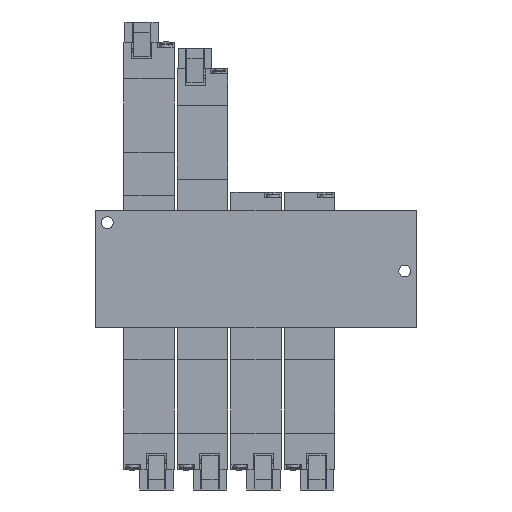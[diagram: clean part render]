
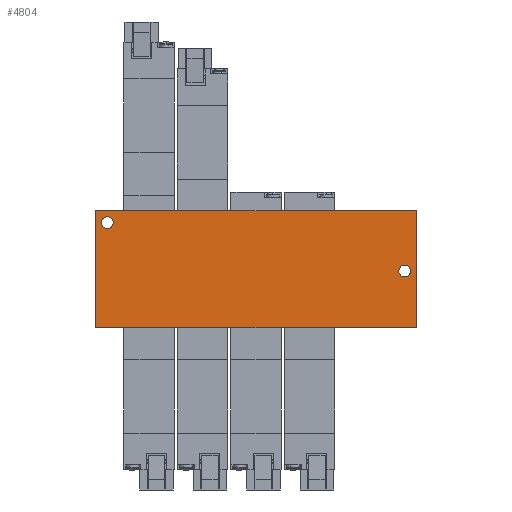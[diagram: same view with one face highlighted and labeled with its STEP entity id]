
A CAD part, front view. The second image highlights one B-rep face of the part: STEP entity #4804.
In plain terms, the highlighted planar face has unit normal (0, -1, 0).
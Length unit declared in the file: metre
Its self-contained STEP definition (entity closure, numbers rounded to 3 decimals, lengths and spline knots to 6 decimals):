
#79 = CARTESIAN_POINT ( 'NONE',  ( 0.0445, -0.0095, -0.00225 ) ) ;
#86 = ORIENTED_EDGE ( 'NONE', *, *, #9674, .F. ) ;
#687 = EDGE_CURVE ( 'NONE', #8431, #2465, #11333, .T. ) ;
#762 = EDGE_LOOP ( 'NONE', ( #12275, #86 ) ) ;
#967 = LINE ( 'NONE', #7772, #10831 ) ;
#983 = FACE_BOUND ( 'NONE', #762, .T. ) ;
#1228 = EDGE_CURVE ( 'NONE', #7859, #3718, #11707, .T. ) ;
#1677 = CARTESIAN_POINT ( 'NONE',  ( -0.0445, -0.0095, 0.01575 ) ) ;
#2465 = VERTEX_POINT ( 'NONE', #10320 ) ;
#3159 = CARTESIAN_POINT ( 'NONE',  ( 0., -0.0095, 0.0175 ) ) ;
#3273 = VECTOR ( 'NONE', #3623, 1. ) ;
#3282 = EDGE_LOOP ( 'NONE', ( #9402, #14797, #14709, #14995 ) ) ;
#3494 = VERTEX_POINT ( 'NONE', #13780 ) ;
#3531 = VERTEX_POINT ( 'NONE', #13717 ) ;
#3623 = DIRECTION ( 'NONE',  ( 1., 0., 0. ) ) ;
#3718 = VERTEX_POINT ( 'NONE', #79 ) ;
#3760 = CIRCLE ( 'NONE', #12991, 0.00175 ) ;
#4124 = CARTESIAN_POINT ( 'NONE',  ( 0.0445, -0.0095, -0.0005 ) ) ;
#4220 = CIRCLE ( 'NONE', #12711, 0.00175 ) ;
#4516 = CARTESIAN_POINT ( 'NONE',  ( -0.048, -0.0095, -0.0175 ) ) ;
#4771 = VERTEX_POINT ( 'NONE', #6839 ) ;
#4804 = ADVANCED_FACE ( 'NONE', ( #983, #14297, #11261 ), #11058, .F. ) ;
#4972 = EDGE_LOOP ( 'NONE', ( #6761, #16068 ) ) ;
#5285 = CARTESIAN_POINT ( 'NONE',  ( -0.0445, -0.0095, 0.014 ) ) ;
#5446 = AXIS2_PLACEMENT_3D ( 'NONE', #5285, #14525, #6642 ) ;
#5499 = DIRECTION ( 'NONE',  ( 0., 0., 1. ) ) ;
#6406 = EDGE_CURVE ( 'NONE', #3531, #4771, #16285, .T. ) ;
#6438 = CARTESIAN_POINT ( 'NONE',  ( 0.0445, -0.0095, -0.0005 ) ) ;
#6642 = DIRECTION ( 'NONE',  ( 0., 0., 1. ) ) ;
#6761 = ORIENTED_EDGE ( 'NONE', *, *, #1228, .F. ) ;
#6839 = CARTESIAN_POINT ( 'NONE',  ( 0.048, -0.0095, -0.0175 ) ) ;
#6919 = EDGE_CURVE ( 'NONE', #2465, #3531, #14264, .T. ) ;
#7136 = CARTESIAN_POINT ( 'NONE',  ( -0.0445, -0.0095, 0.014 ) ) ;
#7311 = DIRECTION ( 'NONE',  ( 0., -1., 0. ) ) ;
#7530 = DIRECTION ( 'NONE',  ( 0., 0., 1. ) ) ;
#7772 = CARTESIAN_POINT ( 'NONE',  ( 0., -0.0095, -0.0175 ) ) ;
#7797 = DIRECTION ( 'NONE',  ( 0., 0., 1. ) ) ;
#7818 = VECTOR ( 'NONE', #15628, 1. ) ;
#7859 = VERTEX_POINT ( 'NONE', #11050 ) ;
#8431 = VERTEX_POINT ( 'NONE', #4516 ) ;
#9102 = AXIS2_PLACEMENT_3D ( 'NONE', #11432, #12248, #12175 ) ;
#9331 = VECTOR ( 'NONE', #11866, 1. ) ;
#9402 = ORIENTED_EDGE ( 'NONE', *, *, #6406, .F. ) ;
#9488 = CIRCLE ( 'NONE', #5446, 0.00175 ) ;
#9674 = EDGE_CURVE ( 'NONE', #3494, #13645, #3760, .T. ) ;
#10320 = CARTESIAN_POINT ( 'NONE',  ( -0.048, -0.0095, 0.0175 ) ) ;
#10831 = VECTOR ( 'NONE', #14300, 1. ) ;
#11050 = CARTESIAN_POINT ( 'NONE',  ( 0.0445, -0.0095, 0.00125 ) ) ;
#11058 = PLANE ( 'NONE',  #9102 ) ;
#11261 = FACE_OUTER_BOUND ( 'NONE', #3282, .T. ) ;
#11333 = LINE ( 'NONE', #14342, #7818 ) ;
#11432 = CARTESIAN_POINT ( 'NONE',  ( -0.048, -0.0095, -0.0175 ) ) ;
#11707 = CIRCLE ( 'NONE', #16678, 0.00175 ) ;
#11821 = EDGE_CURVE ( 'NONE', #3718, #7859, #4220, .T. ) ;
#11866 = DIRECTION ( 'NONE',  ( 0., 0., -1. ) ) ;
#11889 = CARTESIAN_POINT ( 'NONE',  ( 0.048, -0.0095, 0. ) ) ;
#12175 = DIRECTION ( 'NONE',  ( 0., 0., 1. ) ) ;
#12248 = DIRECTION ( 'NONE',  ( 0., 1., 0. ) ) ;
#12275 = ORIENTED_EDGE ( 'NONE', *, *, #16334, .F. ) ;
#12711 = AXIS2_PLACEMENT_3D ( 'NONE', #4124, #13405, #5499 ) ;
#12991 = AXIS2_PLACEMENT_3D ( 'NONE', #7136, #7311, #7530 ) ;
#13405 = DIRECTION ( 'NONE',  ( 0., -1., 0. ) ) ;
#13645 = VERTEX_POINT ( 'NONE', #1677 ) ;
#13717 = CARTESIAN_POINT ( 'NONE',  ( 0.048, -0.0095, 0.0175 ) ) ;
#13780 = CARTESIAN_POINT ( 'NONE',  ( -0.0445, -0.0095, 0.01225 ) ) ;
#14264 = LINE ( 'NONE', #3159, #3273 ) ;
#14297 = FACE_BOUND ( 'NONE', #4972, .T. ) ;
#14300 = DIRECTION ( 'NONE',  ( -1., 0., 0. ) ) ;
#14342 = CARTESIAN_POINT ( 'NONE',  ( -0.048, -0.0095, 0. ) ) ;
#14525 = DIRECTION ( 'NONE',  ( 0., -1., 0. ) ) ;
#14585 = EDGE_CURVE ( 'NONE', #4771, #8431, #967, .T. ) ;
#14709 = ORIENTED_EDGE ( 'NONE', *, *, #687, .F. ) ;
#14797 = ORIENTED_EDGE ( 'NONE', *, *, #6919, .F. ) ;
#14995 = ORIENTED_EDGE ( 'NONE', *, *, #14585, .F. ) ;
#15621 = DIRECTION ( 'NONE',  ( 0., -1., 0. ) ) ;
#15628 = DIRECTION ( 'NONE',  ( 0., 0., 1. ) ) ;
#16068 = ORIENTED_EDGE ( 'NONE', *, *, #11821, .F. ) ;
#16285 = LINE ( 'NONE', #11889, #9331 ) ;
#16334 = EDGE_CURVE ( 'NONE', #13645, #3494, #9488, .T. ) ;
#16678 = AXIS2_PLACEMENT_3D ( 'NONE', #6438, #15621, #7797 ) ;
